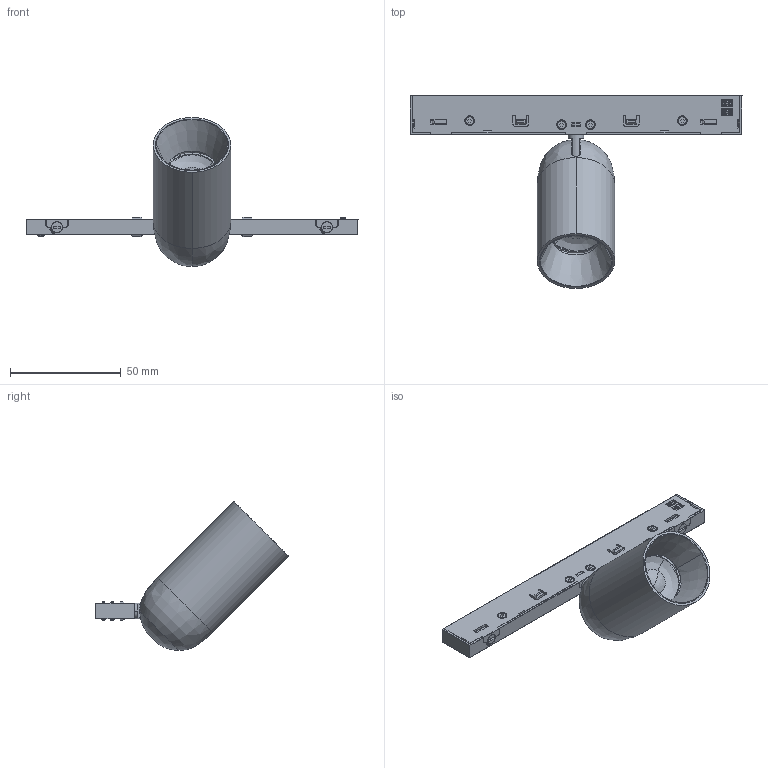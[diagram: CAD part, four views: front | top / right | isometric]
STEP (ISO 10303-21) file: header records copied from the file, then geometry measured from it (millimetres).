
FILE_DESCRIPTION (( 'STEP AP203' ), '1' );
FILE_NAME ('PK0108 Poke.STEP', '2025-08-02T06:55:22', ( '' ), ( '' ), 'SwSTEP 2.0', 'SolidWorks 2020', '' );
FILE_SCHEMA (( 'CONFIG_CONTROL_DESIGN' ));
Length unit declared in the file: millimetre
Products named in the file (19): WT-25-02.stp; KC-0006-0219.stp; BXRH-30G1000-B-73.stp; KC-0006-0224.stp; KC-0006-0169.stp; WT-25-01.stp; M2_5-01.stp.STEP; WT-25-03.stp; M2_5-6-01.stp; KC-0006-0301.stp.STEP; KC-0006-0303.stp.STEP; 萇ん碟2.STEP; PK0108 Poke; M2_5_5-01.stp; KC-0006-0004.stp.STEP; KC-0006-0218.stp; KC-0006-0302.stp.STEP; KC-0006-0225.stp; WT-25_ASM.stp
Assembly tree (29 placements, depth 3):
  PK0108 Poke
    萇ん碟2.STEP
      KC-0006-0301.stp.STEP
      KC-0006-0303.stp.STEP  x2
      KC-0006-0302.stp.STEP
      KC-0006-0004.stp.STEP  x4
      M2_5-01.stp.STEP  x4
    WT-25_ASM.stp
      WT-25-01.stp
      WT-25-02.stp
      WT-25-03.stp
      BXRH-30G1000-B-73.stp
      M2_5_5-01.stp  x2
    KC-0006-0225.stp
    KC-0006-0169.stp
    M2_5_5-01.stp  x2
    KC-0006-0218.stp
    KC-0006-0219.stp
    M2_5-6-01.stp  x2
    KC-0006-0224.stp
Bounding box: 150 x 87.2 x 67.3 mm (x, y, z)
Volume: 71072.8 mm3; surface area: 51275.2 mm2
Topology: 27 solids, 34 shells, 2342 faces, 6404 edges, 4124 vertices
Faces by surface type: plane 1091, cylinder 676, cone 317, bspline 182, torus 42, sphere 34
Entity records: 68695 total; most frequent: CARTESIAN_POINT 23141, ORIENTED_EDGE 9718, DIRECTION 8114, EDGE_CURVE 4859, VERTEX_POINT 3151, AXIS2_PLACEMENT_3D 2709, LINE 2696, VECTOR 2696
